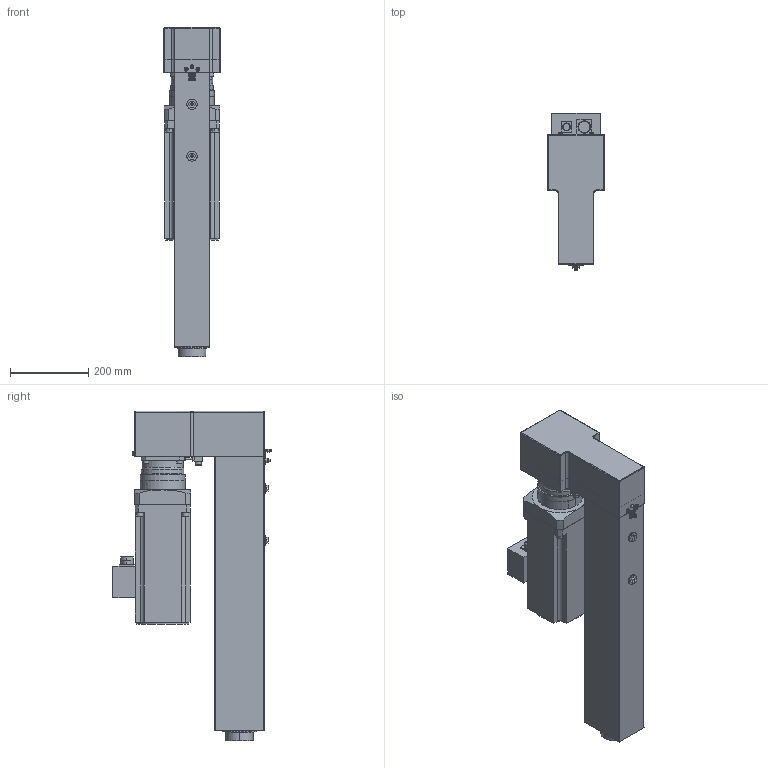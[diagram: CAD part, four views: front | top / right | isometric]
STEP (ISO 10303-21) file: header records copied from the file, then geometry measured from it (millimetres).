
FILE_DESCRIPTION (( 'STEP AP203' ), '1' );
FILE_NAME ('CP5P0500-035-015NXX.STEP', '2016-03-10T13:12:20', ( 'Holtz' ), ( '' ), 'SwSTEP 2.0', 'SolidWorks 2013', '' );
FILE_SCHEMA (( 'CONFIG_CONTROL_DESIGN' ));
Products named in the file (1): CP5P0500-035-015NXX
Bounding box: 143 x 403.5 x 840 mm (x, y, z)
Volume: 11548028 mm3; surface area: 1700583.7 mm2
Topology: 39 solids, 47 shells, 1404 faces, 3224 edges, 1972 vertices
Faces by surface type: plane 666, cylinder 488, cone 196, torus 42, bspline 12
Entity records: 40776 total; most frequent: CARTESIAN_POINT 8542, DIRECTION 7046, ORIENTED_EDGE 6268, EDGE_CURVE 3134, AXIS2_PLACEMENT_3D 2657, VERTEX_POINT 1972, VECTOR 1732, LINE 1732
